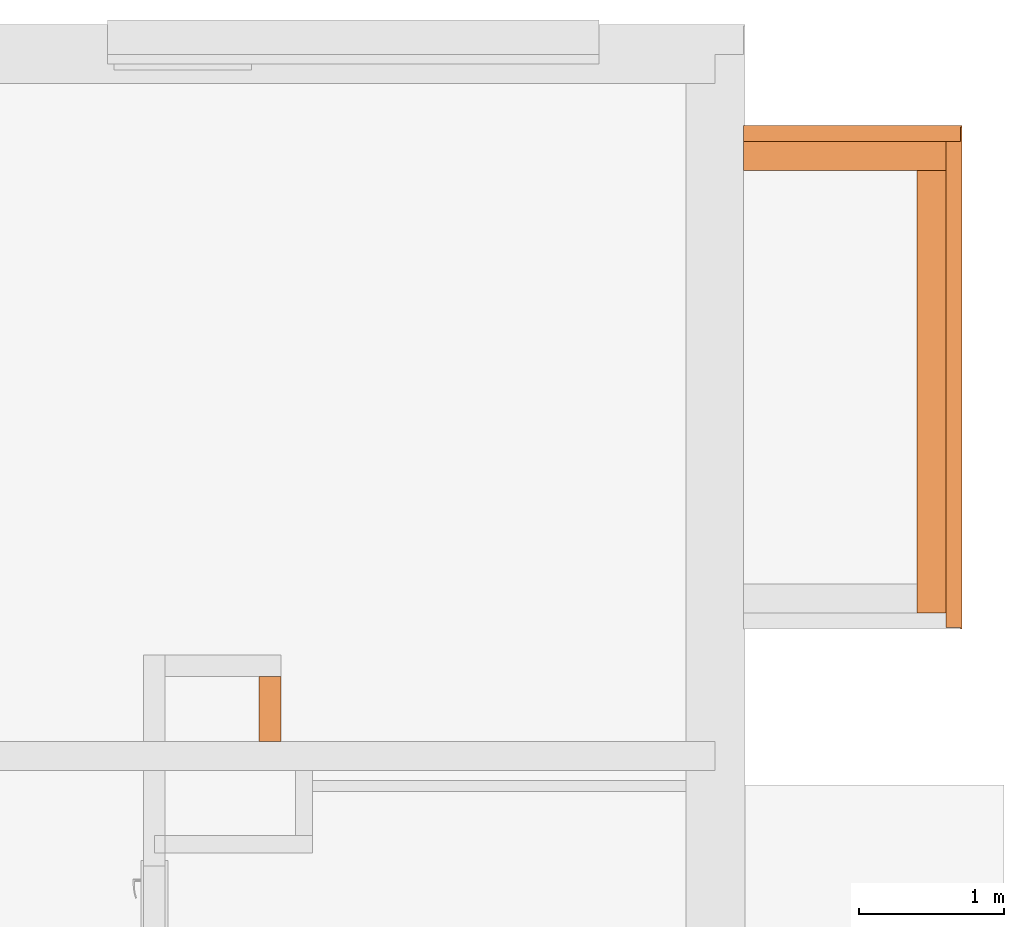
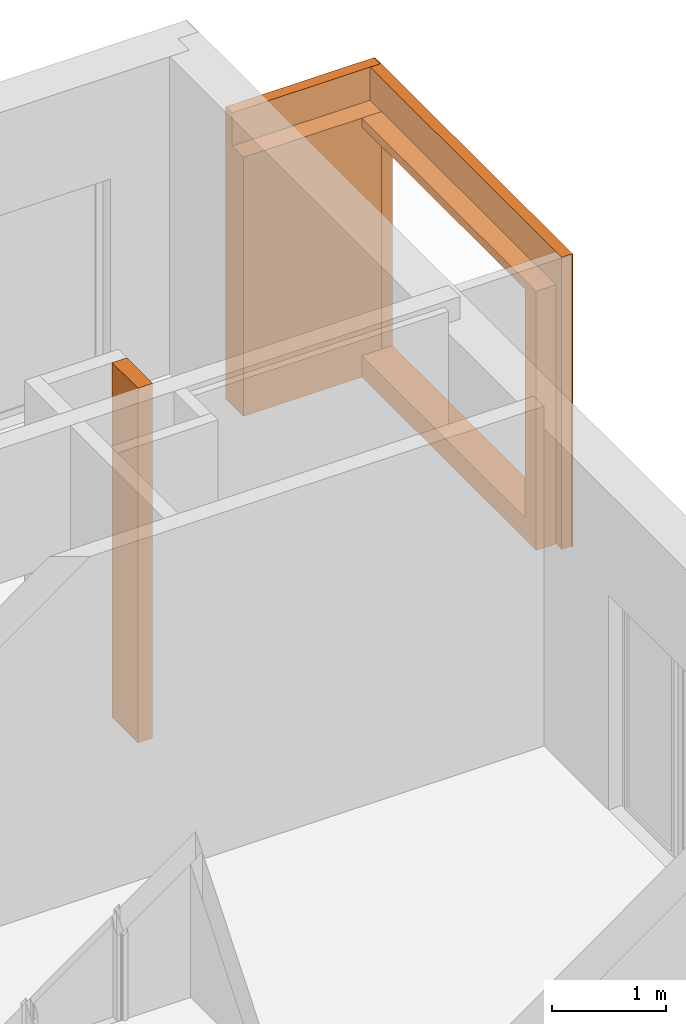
# One storey, part 46 of 46: 3 proxies, 1 opening.
"""IFC2X3 building model written with IfcOpenShell, lengths in millimetres."""

from ifc_helpers import new_model, entity, si_unit, converted_unit, derived_unit, money_unit, direction, frame, origin_with_axes, origin_2d_with_axis, place, context, subcontext, project, spatial, rectangle, extrude, faceted_brep, material, material_list, type_object, element, save


model = new_model("IFC2X3")

# Units and contexts
model_context = context("Model", 3, precision=0.01, world=origin_with_axes(), true_north=direction((0.34421633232, 0.938890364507)))
body_context = subcontext(model_context, "Body", "Model", "MODEL_VIEW")
ifc_project = project(units=[si_unit("LENGTHUNIT", "METRE", prefix="MILLI"), si_unit("AREAUNIT", "SQUARE_METRE"), si_unit("VOLUMEUNIT", "CUBIC_METRE"), converted_unit("PLANEANGLEUNIT", "DEGREE", entity("IfcPlaneAngleMeasure", 0.0174532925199), si_unit("PLANEANGLEUNIT", "RADIAN"), dimensions=[0, 0, 0, 0, 0, 0, 0]), si_unit("SOLIDANGLEUNIT", "STERADIAN"), money_unit("USD"), converted_unit("TIMEUNIT", "Year", entity("IfcTimeMeasure", 31556926.0), si_unit("TIMEUNIT", "SECOND"), dimensions=[0, 0, 1, 0, 0, 0, 0]), si_unit("MASSUNIT", "GRAM", prefix="KILO"), si_unit("THERMODYNAMICTEMPERATUREUNIT", "DEGREE_CELSIUS"), si_unit("LUMINOUSINTENSITYUNIT", "LUMEN"), si_unit("ENERGYUNIT", "JOULE", prefix="MEGA"), derived_unit("THERMALCONDUCTANCEUNIT", [(si_unit("POWERUNIT", "WATT"), 1), (si_unit("LENGTHUNIT", "METRE"), -1), (si_unit("THERMODYNAMICTEMPERATUREUNIT", "KELVIN"), -1)]), derived_unit("SPECIFICHEATCAPACITYUNIT", [(si_unit("ENERGYUNIT", "JOULE"), 1), (si_unit("MASSUNIT", "GRAM", prefix="KILO"), -1), (si_unit("THERMODYNAMICTEMPERATUREUNIT", "KELVIN"), -1)]), derived_unit("MASSDENSITYUNIT", [(si_unit("MASSUNIT", "GRAM", prefix="KILO"), 1), (si_unit("VOLUMEUNIT", "CUBIC_METRE"), -1)])], contexts=[model_context])

# Site, building, storey
site_placement = place(None, origin_with_axes())
site = spatial("IfcSite", under=ifc_project, at=site_placement, Name="USTRONIE MORSKIE", CompositionType="ELEMENT")
building_placement = place(site_placement, origin_with_axes())
building = spatial("IfcBuilding", under=site, at=building_placement, Name="Budynek", CompositionType="ELEMENT")
storey_placement = place(building_placement, origin_with_axes())
storey = spatial("IfcBuildingStorey", under=building, at=storey_placement, Name="PARTER", CompositionType="ELEMENT", Elevation=0.0)

# Proxy
ifc_material_1 = material(Name="Membrana przeciwwilgociowa")
ifc_material_2 = material(Name="Płyty styropianowe twarde HIGH-PRIORITY")
ifc_material_3 = material(Name="Beton konstrukcyjny 01")
ifc_material_list = material_list([ifc_material_1, ifc_material_2, ifc_material_3])
building_element_proxy_type_1 = type_object("IfcBuildingElementProxyType", Name="20+10 GARAŻ 310", PredefinedType="NOTDEFINED")
proxy_1_placement = place(storey_placement, frame((425867.920919, 748851.199036, -230.0), z_axis=(0.0, 0.0, 1.0), x_axis=(1.0, 0.0, 0.0)))
element("IfcBuildingElementProxy", 1, at=proxy_1_placement, inside=storey, type_object=building_element_proxy_type_1, material=ifc_material_list, Name="Œciana-006", context=body_context, shape_type="Brep", body=[
    faceted_brep([(1510.0, 210.0, 3130.0), (0.0, 210.0, 3130.0), (0.0, 200.0, 3130.0), (1510.0, 200.0, 3130.0), (1510.0, 210.0, 0.0), (0.0, 210.0, 0.0), (0.0, 200.0, 0.0), (1510.0, 200.0, 0.0)], [[[0, 1, 2, 3]], [[4, 5, 1, 0]], [[2, 1, 5, 6]], [[3, 2, 6, 7]], [[3, 7, 4, 0]], [[7, 6, 5, 4]]]),
    faceted_brep([(1500.0, 200.0, 3130.0), (0.0, 200.0, 3130.0), (0.0, 100.0, 3130.0), (1500.0, 100.0, 3130.0), (1500.0, 200.0, 0.0), (0.0, 200.0, 0.0), (0.0, 100.0, 0.0), (1500.0, 100.0, 0.0)], [[[0, 1, 2, 3]], [[4, 5, 1, 0]], [[2, 1, 5, 6]], [[3, 2, 6, 7]], [[3, 7, 4, 0]], [[7, 6, 5, 4]]]),
    faceted_brep([(0.0, 100.0, 2775.0), (1400.0, 100.0, 2775.0), (1400.0, 100.0, 0.0), (0.0, 100.0, 0.0), (1400.0, -100.0, 2775.0), (0.0, -100.0, 2775.0), (1400.0, -100.0, 0.0), (0.0, -100.0, 0.0)], [[[0, 1, 2, 3]], [[4, 1, 0, 5]], [[1, 4, 6, 2]], [[2, 6, 7, 3]], [[5, 0, 3, 7]], [[4, 5, 7, 6]]]),
])

# Proxy, opening
proxy_2_placement = place(storey_placement, frame((427167.920919, 748851.199036, -230.0), z_axis=(0.0, 0.0, 1.0), x_axis=(0.0, -1.0, 0.0)))
proxy_2 = element("IfcBuildingElementProxy", 2, at=proxy_2_placement, inside=storey, type_object=building_element_proxy_type_1, material=ifc_material_list, Name="Œciana-006", context=body_context, shape_type="Brep", body=[
    faceted_brep([(3270.0, 210.0, 3130.0), (-200.0, 210.0, 3130.0), (-200.0, 200.0, 3130.0), (3270.0, 200.0, 3130.0), (3270.0, 210.0, 0.0), (-200.0, 210.0, 0.0), (-200.0, 200.0, 0.0), (3270.0, 200.0, 0.0)], [[[0, 1, 2, 3]], [[4, 5, 1, 0]], [[2, 1, 5, 6]], [[3, 2, 6, 7]], [[3, 7, 4, 0]], [[7, 6, 5, 4]]]),
    faceted_brep([(3260.0, 200.0, 3130.0), (-100.0, 200.0, 3130.0), (-100.0, 100.0, 3130.0), (3260.0, 100.0, 3130.0), (3260.0, 200.0, 0.0), (-100.0, 200.0, 0.0), (-100.0, 100.0, 0.0), (3260.0, 100.0, 0.0)], [[[0, 1, 2, 3]], [[4, 5, 1, 0]], [[2, 1, 5, 6]], [[3, 2, 6, 7]], [[3, 7, 4, 0]], [[7, 6, 5, 4]]]),
    faceted_brep([(100.0, -100.0, 2775.0), (100.0, 100.0, 2775.0), (100.0, 100.0, 0.0), (100.0, -100.0, 0.0), (3160.0, 100.0, 2775.0), (3160.0, -100.0, 2775.0), (3160.0, 100.0, 0.0), (3160.0, -100.0, 0.0)], [[[0, 1, 2, 3]], [[4, 1, 0, 5]], [[1, 4, 6, 2]], [[6, 7, 3, 2]], [[5, 0, 3, 7]], [[4, 5, 7, 6]]]),
])
opening_placement = place(proxy_2_placement, frame((1530.0, 0.0, 230.0), z_axis=(0.0, 0.0, 1.0), x_axis=(1.0, 0.0, 0.0)))
element("IfcOpeningElement", 3, at=opening_placement, cuts=proxy_2, Name="Okna-005", context=body_context, shape_type="SweptSolid", body=[
    extrude(rectangle(XDim=2860.0, YDim=2450.0, at=origin_2d_with_axis()), frame((0.0, -100.0, 1225.0), z_axis=(0.0, 1.0, 0.0), x_axis=(1.0, 0.0, 0.0)), (0.0, 0.0, -1.0), 310.0),
    extrude(rectangle(XDim=2860.0, YDim=2450.0, at=origin_2d_with_axis()), frame((0.0, -100.0, 1225.0), z_axis=(0.0, -1.0, 0.0), x_axis=(1.0, 0.0, 0.0)), (0.0, 0.0, -1.0), 310.0),
])

# Proxy
ifc_material_4 = material(Name="Bloczki silikatowe")
building_element_proxy_type_2 = type_object("IfcBuildingElementProxyType", Name="Bloczki silikatowe 150", PredefinedType="NOTDEFINED")
proxy_3_placement = place(storey_placement, frame((422592.920919, 745326.199036, -160.0), z_axis=(0.0, 0.0, 1.0), x_axis=(0.0, -1.0, 0.0)))
element("IfcBuildingElementProxy", 4, at=proxy_3_placement, inside=storey, type_object=building_element_proxy_type_2, material=ifc_material_4, Name="Œciana-007", context=body_context, shape_type="Brep", body=[
    faceted_brep([(525.0, 75.0, 0.0), (525.0, -75.0, 0.0), (75.0, -75.0, 0.0), (75.0, 75.0, 0.0), (525.0, 75.0, 3800.0), (525.0, -75.0, 3800.0), (75.0, -75.0, 3800.0), (75.0, 75.0, 3800.0)], [[[0, 1, 2, 3]], [[1, 0, 4, 5]], [[1, 5, 6, 2]], [[7, 3, 2, 6]], [[4, 0, 3, 7]], [[5, 4, 7, 6]]]),
])

save(model, "model.ifc")
